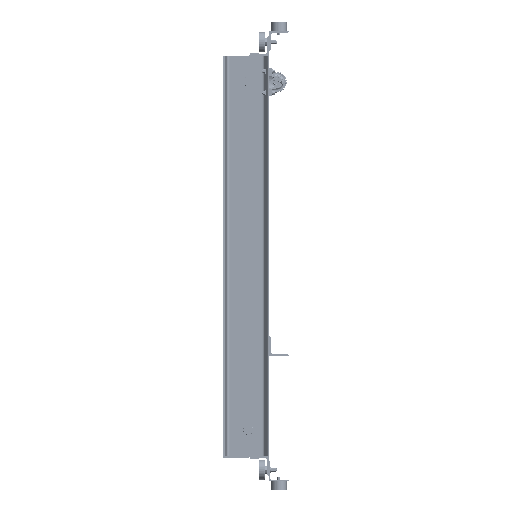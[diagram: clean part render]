
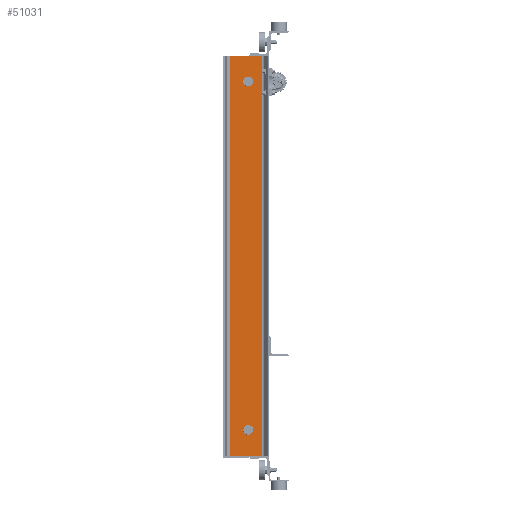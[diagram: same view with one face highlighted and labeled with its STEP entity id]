
A CAD part, left-side view. The second image highlights one B-rep face of the part: STEP entity #51031.
In plain terms, the highlighted planar face has unit normal (-1, 0, 0) as drawn and (1, 0, 0) by its records, which use the part's own axes.
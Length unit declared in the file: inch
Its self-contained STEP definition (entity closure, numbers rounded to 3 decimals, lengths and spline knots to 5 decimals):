
#4313 = ORIENTED_EDGE ( 'NONE', *, *, #214135, .T. ) ;
#7520 = DIRECTION ( 'NONE',  ( -1., 0., 0. ) ) ;
#8132 = DIRECTION ( 'NONE',  ( 0., 0., -1. ) ) ;
#24979 = CIRCLE ( 'NONE', #96217, 0.789 ) ;
#25808 = CARTESIAN_POINT ( 'NONE',  ( 0.353, 6.85768, 35. ) ) ;
#26547 = EDGE_CURVE ( 'NONE', #205272, #80193, #141990, .T. ) ;
#26809 = VERTEX_POINT ( 'NONE', #189493 ) ;
#27998 = DIRECTION ( 'NONE',  ( 0., 0., -1. ) ) ;
#33405 = CARTESIAN_POINT ( 'NONE',  ( 0.353, 3.622, -30.6 ) ) ;
#34472 = DIRECTION ( 'NONE',  ( 0., 1., 0. ) ) ;
#35693 = AXIS2_PLACEMENT_3D ( 'NONE', #107886, #91087, #41980 ) ;
#41980 = DIRECTION ( 'NONE',  ( 0., 1., 0. ) ) ;
#42583 = ORIENTED_EDGE ( 'NONE', *, *, #153239, .F. ) ;
#44176 = VERTEX_POINT ( 'NONE', #52814 ) ;
#47873 = DIRECTION ( 'NONE',  ( 0., -1., 0. ) ) ;
#51031 = ADVANCED_FACE ( 'NONE', ( #179211, #211570, #57671 ), #55461, .T. ) ;
#52121 = ORIENTED_EDGE ( 'NONE', *, *, #63726, .F. ) ;
#52814 = CARTESIAN_POINT ( 'NONE',  ( 0.353, 3.622, -31.389 ) ) ;
#55461 = PLANE ( 'NONE',  #35693 ) ;
#57671 = FACE_BOUND ( 'NONE', #203054, .T. ) ;
#62235 = DIRECTION ( 'NONE',  ( 0., -1., 0. ) ) ;
#63726 = EDGE_CURVE ( 'NONE', #26809, #80193, #65515, .T. ) ;
#65515 = LINE ( 'NONE', #129111, #113803 ) ;
#65916 = CARTESIAN_POINT ( 'NONE',  ( 0.353, 1.14232, -35. ) ) ;
#73421 = CARTESIAN_POINT ( 'NONE',  ( 0.353, 3.622, 30.5 ) ) ;
#80193 = VERTEX_POINT ( 'NONE', #65916 ) ;
#80260 = CARTESIAN_POINT ( 'NONE',  ( 0.353, 6.85768, 35. ) ) ;
#81659 = CARTESIAN_POINT ( 'NONE',  ( 0.353, 3.622, -29.811 ) ) ;
#91087 = DIRECTION ( 'NONE',  ( 1., 0., 0. ) ) ;
#91187 = DIRECTION ( 'NONE',  ( 0., 1., 0. ) ) ;
#96217 = AXIS2_PLACEMENT_3D ( 'NONE', #176577, #108568, #141974 ) ;
#101485 = DIRECTION ( 'NONE',  ( -1., 0., 0. ) ) ;
#107886 = CARTESIAN_POINT ( 'NONE',  ( 0.353, 6.85768, 35. ) ) ;
#108047 = EDGE_LOOP ( 'NONE', ( #52121, #42583, #135352, #201916 ) ) ;
#108568 = DIRECTION ( 'NONE',  ( -1., 0., 0. ) ) ;
#112112 = CIRCLE ( 'NONE', #115628, 0.789 ) ;
#113803 = VECTOR ( 'NONE', #62235, 39.37008 ) ;
#114268 = ORIENTED_EDGE ( 'NONE', *, *, #207009, .T. ) ;
#115628 = AXIS2_PLACEMENT_3D ( 'NONE', #33405, #101485, #34472 ) ;
#115658 = AXIS2_PLACEMENT_3D ( 'NONE', #174800, #135831, #172632 ) ;
#117000 = LINE ( 'NONE', #80260, #163688 ) ;
#123196 = VERTEX_POINT ( 'NONE', #196080 ) ;
#126910 = CARTESIAN_POINT ( 'NONE',  ( 0.353, 3.622, 29.711 ) ) ;
#129111 = CARTESIAN_POINT ( 'NONE',  ( 0.353, 6.85768, -35. ) ) ;
#129266 = VECTOR ( 'NONE', #8132, 39.37008 ) ;
#129862 = CARTESIAN_POINT ( 'NONE',  ( 0.353, 1.14232, 35. ) ) ;
#131045 = ORIENTED_EDGE ( 'NONE', *, *, #209307, .T. ) ;
#135352 = ORIENTED_EDGE ( 'NONE', *, *, #159375, .T. ) ;
#135831 = DIRECTION ( 'NONE',  ( -1., 0., 0. ) ) ;
#141974 = DIRECTION ( 'NONE',  ( 0., 1., 0. ) ) ;
#141990 = LINE ( 'NONE', #160927, #129266 ) ;
#153239 = EDGE_CURVE ( 'NONE', #123196, #26809, #197626, .T. ) ;
#158418 = CIRCLE ( 'NONE', #115658, 0.789 ) ;
#158945 = VECTOR ( 'NONE', #27998, 39.37008 ) ;
#159375 = EDGE_CURVE ( 'NONE', #123196, #205272, #117000, .T. ) ;
#160927 = CARTESIAN_POINT ( 'NONE',  ( 0.353, 1.14232, 35. ) ) ;
#163688 = VECTOR ( 'NONE', #47873, 39.37008 ) ;
#172632 = DIRECTION ( 'NONE',  ( 0., 1., 0. ) ) ;
#174800 = CARTESIAN_POINT ( 'NONE',  ( 0.353, 3.622, -30.6 ) ) ;
#175534 = CIRCLE ( 'NONE', #182558, 0.789 ) ;
#176577 = CARTESIAN_POINT ( 'NONE',  ( 0.353, 3.622, 30.5 ) ) ;
#178302 = VERTEX_POINT ( 'NONE', #81659 ) ;
#179211 = FACE_BOUND ( 'NONE', #213772, .T. ) ;
#180474 = EDGE_CURVE ( 'NONE', #44176, #178302, #112112, .T. ) ;
#182558 = AXIS2_PLACEMENT_3D ( 'NONE', #73421, #7520, #91187 ) ;
#189493 = CARTESIAN_POINT ( 'NONE',  ( 0.353, 6.85768, -35. ) ) ;
#195862 = VERTEX_POINT ( 'NONE', #126910 ) ;
#196080 = CARTESIAN_POINT ( 'NONE',  ( 0.353, 6.85768, 35. ) ) ;
#197626 = LINE ( 'NONE', #25808, #158945 ) ;
#198512 = VERTEX_POINT ( 'NONE', #217349 ) ;
#201916 = ORIENTED_EDGE ( 'NONE', *, *, #26547, .T. ) ;
#203054 = EDGE_LOOP ( 'NONE', ( #4313, #219990 ) ) ;
#205272 = VERTEX_POINT ( 'NONE', #129862 ) ;
#207009 = EDGE_CURVE ( 'NONE', #198512, #195862, #24979, .T. ) ;
#209307 = EDGE_CURVE ( 'NONE', #195862, #198512, #175534, .T. ) ;
#211570 = FACE_OUTER_BOUND ( 'NONE', #108047, .T. ) ;
#213772 = EDGE_LOOP ( 'NONE', ( #114268, #131045 ) ) ;
#214135 = EDGE_CURVE ( 'NONE', #178302, #44176, #158418, .T. ) ;
#217349 = CARTESIAN_POINT ( 'NONE',  ( 0.353, 3.622, 31.289 ) ) ;
#219990 = ORIENTED_EDGE ( 'NONE', *, *, #180474, .T. ) ;
